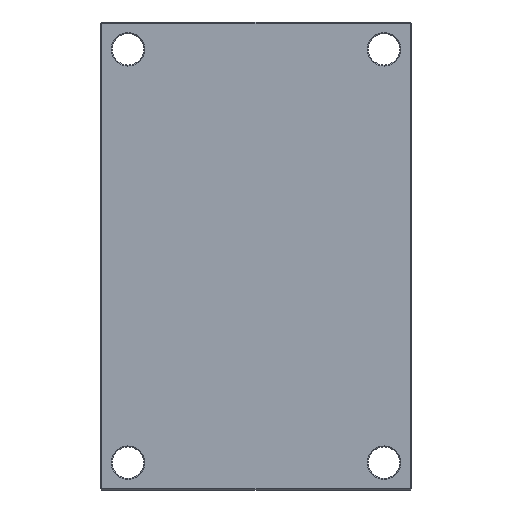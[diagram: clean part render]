
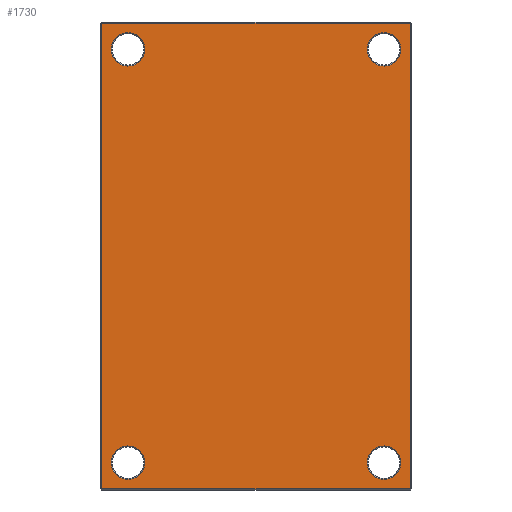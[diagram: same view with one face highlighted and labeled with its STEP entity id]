
A CAD part, front view. The second image highlights one B-rep face of the part: STEP entity #1730.
In plain terms, the highlighted planar face has unit normal (0, -1, 0).
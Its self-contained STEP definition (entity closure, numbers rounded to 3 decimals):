
#32 = CARTESIAN_POINT ( 'NONE',  ( -122., 0., -197. ) ) ;
#83 = AXIS2_PLACEMENT_3D ( 'NONE', #122, #134, #154 ) ;
#116 = ORIENTED_EDGE ( 'NONE', *, *, #1793, .T. ) ;
#122 = CARTESIAN_POINT ( 'NONE',  ( -122., 0., -197. ) ) ;
#134 = DIRECTION ( 'NONE',  ( 0., 1., 0. ) ) ;
#136 = DIRECTION ( 'NONE',  ( 0., 0., 1. ) ) ;
#142 = ORIENTED_EDGE ( 'NONE', *, *, #1916, .T. ) ;
#148 = EDGE_LOOP ( 'NONE', ( #1179, #1101, #711, #1258 ) ) ;
#153 = EDGE_CURVE ( 'NONE', #1817, #576, #1665, .T. ) ;
#154 = DIRECTION ( 'NONE',  ( 0., 0., 1. ) ) ;
#165 = EDGE_LOOP ( 'NONE', ( #116, #312 ) ) ;
#169 = ORIENTED_EDGE ( 'NONE', *, *, #1586, .T. ) ;
#209 = FACE_BOUND ( 'NONE', #897, .T. ) ;
#239 = DIRECTION ( 'NONE',  ( 0., 0., 1. ) ) ;
#247 = AXIS2_PLACEMENT_3D ( 'NONE', #896, #1271, #1274 ) ;
#259 = CIRCLE ( 'NONE', #247, 16. ) ;
#263 = CARTESIAN_POINT ( 'NONE',  ( -122., 0., -213. ) ) ;
#283 = DIRECTION ( 'NONE',  ( 0., 0., 1. ) ) ;
#297 = CARTESIAN_POINT ( 'NONE',  ( 122., 0., 197. ) ) ;
#312 = ORIENTED_EDGE ( 'NONE', *, *, #783, .T. ) ;
#326 = DIRECTION ( 'NONE',  ( 0., 1., 0. ) ) ;
#329 = VERTEX_POINT ( 'NONE', #1032 ) ;
#443 = LINE ( 'NONE', #597, #803 ) ;
#504 = EDGE_CURVE ( 'NONE', #576, #717, #916, .T. ) ;
#526 = VERTEX_POINT ( 'NONE', #1077 ) ;
#576 = VERTEX_POINT ( 'NONE', #1190 ) ;
#597 = CARTESIAN_POINT ( 'NONE',  ( 0., 0., 222. ) ) ;
#601 = VERTEX_POINT ( 'NONE', #1447 ) ;
#626 = DIRECTION ( 'NONE',  ( -1., 0., 0. ) ) ;
#666 = AXIS2_PLACEMENT_3D ( 'NONE', #1617, #1631, #1655 ) ;
#667 = CARTESIAN_POINT ( 'NONE',  ( -147., 0., 222. ) ) ;
#675 = AXIS2_PLACEMENT_3D ( 'NONE', #32, #2003, #1995 ) ;
#703 = CIRCLE ( 'NONE', #1443, 16. ) ;
#711 = ORIENTED_EDGE ( 'NONE', *, *, #153, .T. ) ;
#717 = VERTEX_POINT ( 'NONE', #2122 ) ;
#751 = CIRCLE ( 'NONE', #1476, 16. ) ;
#755 = VECTOR ( 'NONE', #239, 1000. ) ;
#768 = VECTOR ( 'NONE', #1368, 1000. ) ;
#783 = EDGE_CURVE ( 'NONE', #882, #526, #259, .T. ) ;
#788 = CARTESIAN_POINT ( 'NONE',  ( 122., 0., -181. ) ) ;
#792 = CARTESIAN_POINT ( 'NONE',  ( 147., 0., 222. ) ) ;
#803 = VECTOR ( 'NONE', #626, 1000. ) ;
#819 = VERTEX_POINT ( 'NONE', #788 ) ;
#827 = VECTOR ( 'NONE', #885, 1000. ) ;
#835 = DIRECTION ( 'NONE',  ( 0., 1., 0. ) ) ;
#839 = CARTESIAN_POINT ( 'NONE',  ( -122., 0., 213. ) ) ;
#844 = DIRECTION ( 'NONE',  ( 0., 0., 1. ) ) ;
#874 = ORIENTED_EDGE ( 'NONE', *, *, #2085, .T. ) ;
#882 = VERTEX_POINT ( 'NONE', #839 ) ;
#885 = DIRECTION ( 'NONE',  ( 0., 0., -1. ) ) ;
#896 = CARTESIAN_POINT ( 'NONE',  ( -122., 0., 197. ) ) ;
#897 = EDGE_LOOP ( 'NONE', ( #2010, #874 ) ) ;
#903 = CIRCLE ( 'NONE', #1522, 16. ) ;
#916 = LINE ( 'NONE', #1396, #768 ) ;
#947 = EDGE_CURVE ( 'NONE', #1459, #329, #1611, .T. ) ;
#957 = ORIENTED_EDGE ( 'NONE', *, *, #1883, .T. ) ;
#968 = CARTESIAN_POINT ( 'NONE',  ( 122., 0., -197. ) ) ;
#1032 = CARTESIAN_POINT ( 'NONE',  ( -122., 0., -181. ) ) ;
#1039 = FACE_BOUND ( 'NONE', #1278, .T. ) ;
#1054 = DIRECTION ( 'NONE',  ( 0., 1., 0. ) ) ;
#1072 = CARTESIAN_POINT ( 'NONE',  ( -147., 0., 0. ) ) ;
#1077 = CARTESIAN_POINT ( 'NONE',  ( -122., 0., 181. ) ) ;
#1085 = EDGE_CURVE ( 'NONE', #717, #2127, #1192, .T. ) ;
#1087 = ORIENTED_EDGE ( 'NONE', *, *, #1971, .T. ) ;
#1101 = ORIENTED_EDGE ( 'NONE', *, *, #1844, .T. ) ;
#1167 = CARTESIAN_POINT ( 'NONE',  ( 147., 0., 0. ) ) ;
#1179 = ORIENTED_EDGE ( 'NONE', *, *, #1085, .T. ) ;
#1190 = CARTESIAN_POINT ( 'NONE',  ( -147., 0., -222. ) ) ;
#1192 = LINE ( 'NONE', #1167, #755 ) ;
#1203 = CARTESIAN_POINT ( 'NONE',  ( 122., 0., 197. ) ) ;
#1235 = CIRCLE ( 'NONE', #675, 16. ) ;
#1258 = ORIENTED_EDGE ( 'NONE', *, *, #504, .T. ) ;
#1271 = DIRECTION ( 'NONE',  ( 0., 1., 0. ) ) ;
#1274 = DIRECTION ( 'NONE',  ( 0., 0., 1. ) ) ;
#1278 = EDGE_LOOP ( 'NONE', ( #1087, #169 ) ) ;
#1322 = AXIS2_PLACEMENT_3D ( 'NONE', #1404, #2123, #136 ) ;
#1368 = DIRECTION ( 'NONE',  ( 1., 0., 0. ) ) ;
#1396 = CARTESIAN_POINT ( 'NONE',  ( 0., 0., -222. ) ) ;
#1404 = CARTESIAN_POINT ( 'NONE',  ( 0., 0., 0. ) ) ;
#1443 = AXIS2_PLACEMENT_3D ( 'NONE', #1203, #1054, #2027 ) ;
#1447 = CARTESIAN_POINT ( 'NONE',  ( 122., 0., -213. ) ) ;
#1459 = VERTEX_POINT ( 'NONE', #263 ) ;
#1466 = FACE_BOUND ( 'NONE', #165, .T. ) ;
#1476 = AXIS2_PLACEMENT_3D ( 'NONE', #297, #326, #1875 ) ;
#1486 = EDGE_LOOP ( 'NONE', ( #142, #957 ) ) ;
#1522 = AXIS2_PLACEMENT_3D ( 'NONE', #1680, #1608, #283 ) ;
#1586 = EDGE_CURVE ( 'NONE', #819, #601, #1604, .T. ) ;
#1604 = CIRCLE ( 'NONE', #666, 16. ) ;
#1608 = DIRECTION ( 'NONE',  ( 0., 1., 0. ) ) ;
#1611 = CIRCLE ( 'NONE', #83, 16. ) ;
#1617 = CARTESIAN_POINT ( 'NONE',  ( 122., 0., -197. ) ) ;
#1631 = DIRECTION ( 'NONE',  ( 0., 1., 0. ) ) ;
#1632 = VERTEX_POINT ( 'NONE', #1824 ) ;
#1634 = CIRCLE ( 'NONE', #2108, 16. ) ;
#1655 = DIRECTION ( 'NONE',  ( 0., 0., 1. ) ) ;
#1665 = LINE ( 'NONE', #1072, #827 ) ;
#1675 = CARTESIAN_POINT ( 'NONE',  ( 122., 0., 181. ) ) ;
#1680 = CARTESIAN_POINT ( 'NONE',  ( -122., 0., 197. ) ) ;
#1730 = ADVANCED_FACE ( 'NONE', ( #209, #1039, #1917, #1466, #1988 ), #1965, .F. ) ;
#1765 = VERTEX_POINT ( 'NONE', #1675 ) ;
#1793 = EDGE_CURVE ( 'NONE', #526, #882, #903, .T. ) ;
#1817 = VERTEX_POINT ( 'NONE', #667 ) ;
#1824 = CARTESIAN_POINT ( 'NONE',  ( 122., 0., 213. ) ) ;
#1844 = EDGE_CURVE ( 'NONE', #2127, #1817, #443, .T. ) ;
#1875 = DIRECTION ( 'NONE',  ( 0., 0., 1. ) ) ;
#1883 = EDGE_CURVE ( 'NONE', #1632, #1765, #751, .T. ) ;
#1916 = EDGE_CURVE ( 'NONE', #1765, #1632, #703, .T. ) ;
#1917 = FACE_BOUND ( 'NONE', #1486, .T. ) ;
#1965 = PLANE ( 'NONE',  #1322 ) ;
#1971 = EDGE_CURVE ( 'NONE', #601, #819, #1634, .T. ) ;
#1988 = FACE_OUTER_BOUND ( 'NONE', #148, .T. ) ;
#1995 = DIRECTION ( 'NONE',  ( 0., 0., 1. ) ) ;
#2003 = DIRECTION ( 'NONE',  ( 0., 1., 0. ) ) ;
#2010 = ORIENTED_EDGE ( 'NONE', *, *, #947, .T. ) ;
#2027 = DIRECTION ( 'NONE',  ( 0., 0., 1. ) ) ;
#2085 = EDGE_CURVE ( 'NONE', #329, #1459, #1235, .T. ) ;
#2108 = AXIS2_PLACEMENT_3D ( 'NONE', #968, #835, #844 ) ;
#2122 = CARTESIAN_POINT ( 'NONE',  ( 147., 0., -222. ) ) ;
#2123 = DIRECTION ( 'NONE',  ( 0., 1., 0. ) ) ;
#2127 = VERTEX_POINT ( 'NONE', #792 ) ;
